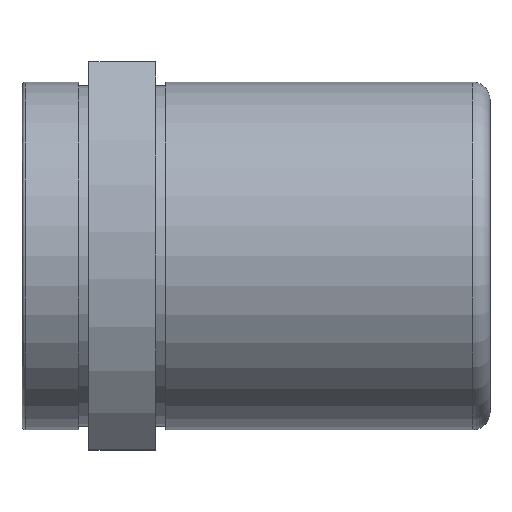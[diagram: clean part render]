
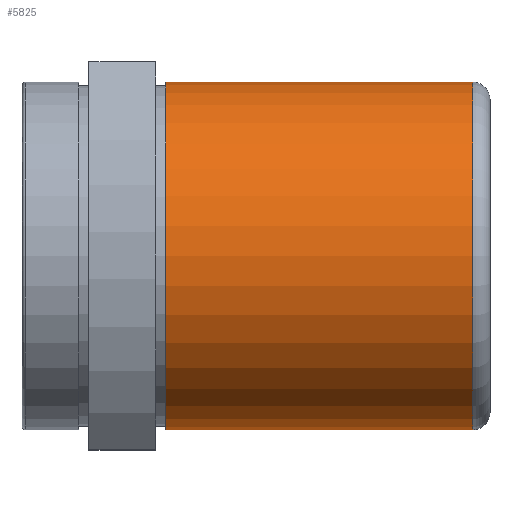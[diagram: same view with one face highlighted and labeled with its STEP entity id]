
A CAD part, top view. The second image highlights one B-rep face of the part: STEP entity #5825.
In plain terms, the highlighted cylindrical face has radius 26 mm (diameter 52 mm), a full revolution.
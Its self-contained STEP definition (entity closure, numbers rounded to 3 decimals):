
#87=CYLINDRICAL_SURFACE('',#6196,26.);
#116=CIRCLE('',#6195,26.);
#117=CIRCLE('',#6197,26.);
#535=ORIENTED_EDGE('',*,*,#2211,.F.);
#536=ORIENTED_EDGE('',*,*,#2210,.T.);
#2210=EDGE_CURVE('',#3049,#3049,#116,.T.);
#2211=EDGE_CURVE('',#3050,#3050,#117,.T.);
#3049=VERTEX_POINT('',#9260);
#3050=VERTEX_POINT('',#9263);
#4763=EDGE_LOOP('',(#535));
#4764=EDGE_LOOP('',(#536));
#5187=FACE_BOUND('',#4763,.T.);
#5188=FACE_BOUND('',#4764,.T.);
#5825=ADVANCED_FACE('',(#5187,#5188),#87,.T.);
#6195=AXIS2_PLACEMENT_3D('',#9259,#6733,#6734);
#6196=AXIS2_PLACEMENT_3D('',#9261,#6735,#6736);
#6197=AXIS2_PLACEMENT_3D('',#9262,#6737,#6738);
#6733=DIRECTION('',(-1.,0.,0.));
#6734=DIRECTION('',(0.,1.,0.));
#6735=DIRECTION('',(-1.,0.,0.));
#6736=DIRECTION('',(0.,1.,0.));
#6737=DIRECTION('',(-1.,0.,0.));
#6738=DIRECTION('',(0.,1.,0.));
#9259=CARTESIAN_POINT('',(67.4,0.,0.));
#9260=CARTESIAN_POINT('',(67.4,26.,0.));
#9261=CARTESIAN_POINT('',(70.,0.,0.));
#9262=CARTESIAN_POINT('',(21.5,0.,0.));
#9263=CARTESIAN_POINT('',(21.5,26.,0.));
